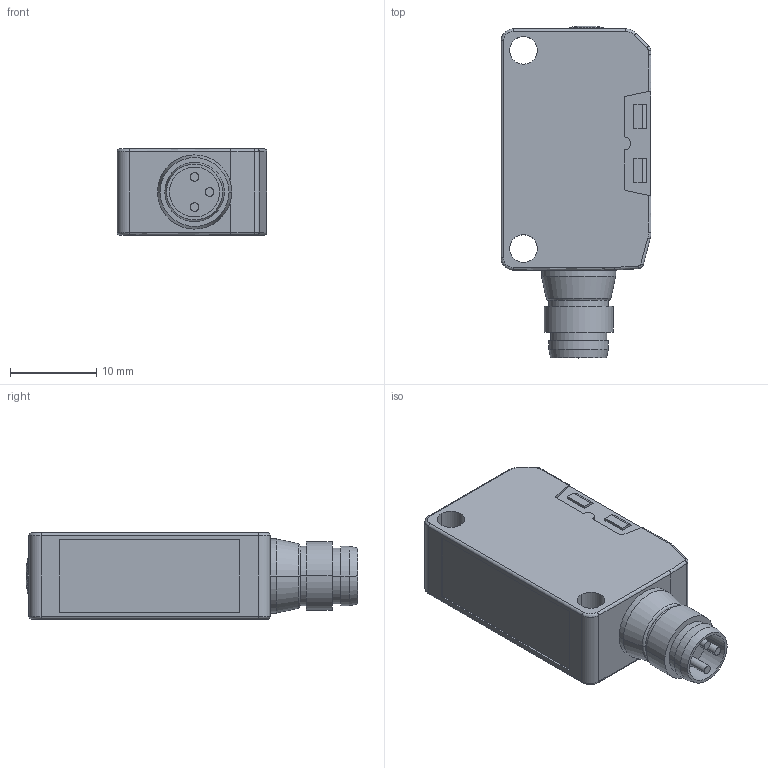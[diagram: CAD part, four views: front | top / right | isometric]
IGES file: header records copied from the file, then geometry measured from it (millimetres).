
Start section: Elysium IGES Interface
Global section: file name: 66HH:\Documents and Settings\y-shirakawa\デスクトップ\S_Connector.igs; native system: CoCreate Modeling 16.50A  01-Dec-2009; preprocessor: CoCreate IGES_3D V2.2; author: Unknown; organization: Unknown; date: 20101202.111511; units: millimetre
Bounding box: 17.4 x 38.54 x 10 mm (x, y, z)
Volume: 4974 mm3; surface area: 2363 mm2
Topology: 1 solids, 1 shells, 150 faces, 355 edges, 223 vertices
Faces by surface type: bspline 150
